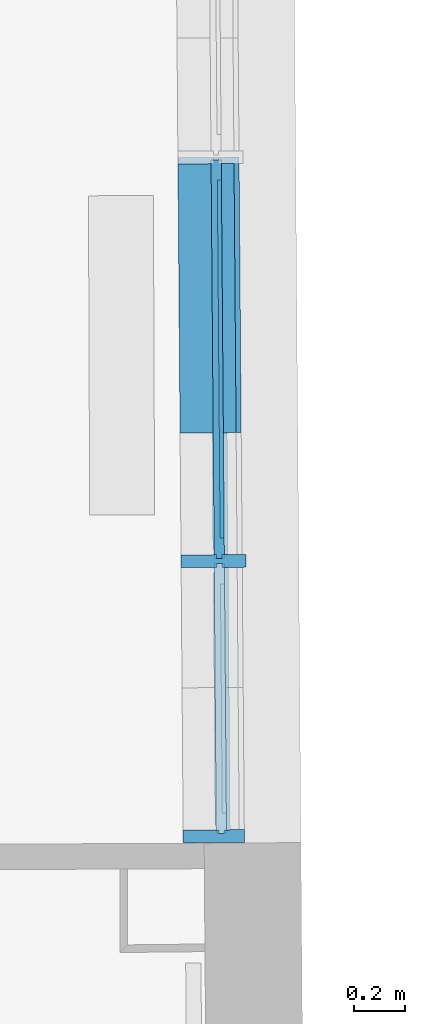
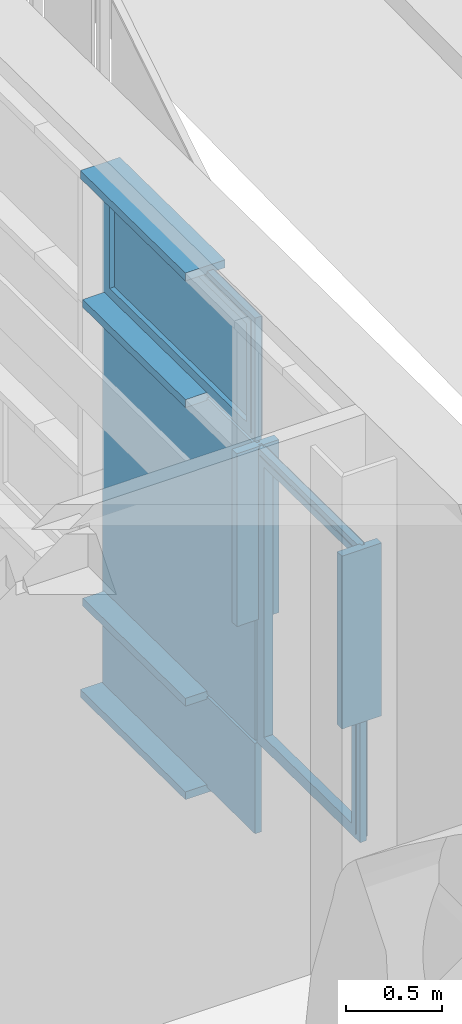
# One storey, part 94 of 158: 11 building element parts, 1 element without a shape of its own.
"""IFC2X3 building model written with IfcOpenShell, lengths in metres."""

from ifc_helpers import new_model, entity, si_unit, converted_unit, derived_unit, money_unit, direction, frame, origin_with_axes, place, context, subcontext, project, spatial, faceted_brep, material, type_object, element, aggregate, save


model = new_model("IFC2X3")

# Units and contexts
model_context = context("Model", 3, precision=1e-05, world=origin_with_axes(), true_north=direction((0.0, 1.0)))
body_context = subcontext(model_context, "Body", "Model", "MODEL_VIEW")
ifc_project = project(units=[si_unit("LENGTHUNIT", "METRE"), si_unit("AREAUNIT", "SQUARE_METRE"), si_unit("VOLUMEUNIT", "CUBIC_METRE"), converted_unit("PLANEANGLEUNIT", "DEGREE", entity("IfcPlaneAngleMeasure", 0.0174532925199), si_unit("PLANEANGLEUNIT", "RADIAN"), dimensions=[0, 0, 0, 0, 0, 0, 0]), money_unit("EUR"), converted_unit("TIMEUNIT", "Year", entity("IfcTimeMeasure", 31556926.0), si_unit("TIMEUNIT", "SECOND"), dimensions=[0, 0, 1, 0, 0, 0, 0]), si_unit("MASSUNIT", "GRAM", prefix="KILO"), si_unit("THERMODYNAMICTEMPERATUREUNIT", "DEGREE_CELSIUS"), si_unit("LUMINOUSINTENSITYUNIT", "LUMEN"), si_unit("ENERGYUNIT", "JOULE", prefix="MEGA"), derived_unit("THERMALCONDUCTANCEUNIT", [(si_unit("POWERUNIT", "WATT"), 1), (si_unit("LENGTHUNIT", "METRE"), -1), (si_unit("THERMODYNAMICTEMPERATUREUNIT", "KELVIN"), -1)]), derived_unit("SPECIFICHEATCAPACITYUNIT", [(si_unit("ENERGYUNIT", "JOULE"), 1), (si_unit("MASSUNIT", "GRAM", prefix="KILO"), -1), (si_unit("THERMODYNAMICTEMPERATUREUNIT", "KELVIN"), -1)]), derived_unit("MASSDENSITYUNIT", [(si_unit("MASSUNIT", "GRAM", prefix="KILO"), 1), (si_unit("VOLUMEUNIT", "CUBIC_METRE"), -1)])], contexts=[model_context])

# Site, building, storey
site_placement = place(None, origin_with_axes())
site = spatial("IfcSite", under=ifc_project, at=site_placement, Name="Gelände", CompositionType="ELEMENT")
building_placement = place(site_placement, origin_with_axes())
building = spatial("IfcBuilding", under=site, at=building_placement, Name="Gebäude", CompositionType="ELEMENT")
storey_placement = place(building_placement, origin_with_axes())
storey = spatial("IfcBuildingStorey", under=building, at=storey_placement, Name="ERDGESCHOSS", CompositionType="ELEMENT", Elevation=0.0)

# Proxy, building element parts
building_element_proxy_type = type_object("IfcBuildingElementProxyType", Name="Fassadentyp", PredefinedType="NOTDEFINED")
proxy_placement = place(storey_placement, frame((-15.5457352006, 40.9565245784, 1.34043905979), z_axis=(0.0, 0.0, 1.0), x_axis=(1.0, 0.0, 0.0)))
proxy = element("IfcBuildingElementProxy", 1, at=proxy_placement, inside=storey, type_object=building_element_proxy_type, Name="Fassade-002")
ifc_material_1 = material(Name="45_Glas, Normalglas")
building_element_part_1_placement = place(proxy_placement, origin_with_axes())
building_element_part_1 = element("IfcBuildingElementPart", 2, at=building_element_part_1_placement, material=ifc_material_1, Name="45_Glas, Normalglas", context=body_context, shape_type="Brep", body=[
    faceted_brep([(0.0270233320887, -6.04338100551, 2.50999994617), (0.0670221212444, -6.04306977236, 2.50999994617), (0.0631829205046, -5.54966675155, 2.50999994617), (0.023184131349, -5.54997798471, 2.50999994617), (0.0270233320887, -6.04338100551, 1.41999994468), (0.0670221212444, -6.04306977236, 1.41999994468), (0.0670221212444, -6.04306977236, 0.629999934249), (0.0631829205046, -5.54966675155, 0.629999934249), (0.0548461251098, -4.47824582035, 0.629999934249), (0.0548461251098, -4.47824582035, 1.41999994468), (0.0548461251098, -4.47824582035, 1.4231093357), (0.0548461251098, -4.47824582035, 2.50999994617), (0.0148473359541, -4.47855705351, 2.50999994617), (0.0148473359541, -4.47855705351, 1.4231093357), (0.0148473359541, -4.47855705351, 1.41999994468), (0.0148473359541, -4.47855705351, 0.629999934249), (0.023184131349, -5.54997798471, 0.629999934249), (0.0270233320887, -6.04338100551, 0.629999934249)], [[[0, 1, 2, 3]], [[4, 5, 1, 0]], [[1, 5, 6, 7, 8, 9, 10, 11, 2]], [[3, 2, 11, 12]], [[0, 3, 12, 13, 14, 15, 16, 17, 4]], [[17, 6, 5, 4]], [[16, 7, 6, 17]], [[15, 8, 7, 16]], [[14, 9, 8, 15]], [[13, 10, 9, 14]], [[12, 11, 10, 13]]]),
])
building_element_part_2_placement = place(proxy_placement, origin_with_axes())
building_element_part_2 = element("IfcBuildingElementPart", 3, at=building_element_part_2_placement, material=ifc_material_1, Name="45_Glas, Normalglas", context=body_context, shape_type="Brep", body=[
    faceted_brep([(0.0270233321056, -6.04338100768, 0.609999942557), (0.0670221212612, -6.04306977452, 0.609999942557), (0.0631829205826, -5.54966676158, 0.609999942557), (0.023184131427, -5.54997799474, 0.609999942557), (0.0270233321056, -6.04338100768, 0.0349999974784), (0.0670221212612, -6.04306977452, 0.0349999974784), (0.0631829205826, -5.54966676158, 0.0349999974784), (0.054846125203, -4.47824583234, 0.0349999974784), (0.054846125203, -4.47824583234, 0.609999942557), (0.0148473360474, -4.4785570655, 0.609999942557), (0.0148473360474, -4.4785570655, 0.0349999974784), (0.023184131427, -5.54997799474, 0.0349999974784)], [[[0, 1, 2, 3]], [[4, 5, 1, 0]], [[1, 5, 6, 7, 8, 2]], [[3, 2, 8, 9]], [[0, 3, 9, 10, 11, 4]], [[11, 6, 5, 4]], [[10, 7, 6, 11]], [[9, 8, 7, 10]]]),
])
ifc_material_2 = material(Name="53_Metall, Aluminium")
building_element_part_3_placement = place(proxy_placement, origin_with_axes())
building_element_part_3 = element("IfcBuildingElementPart", 4, at=building_element_part_3_placement, material=ifc_material_2, Name="53_Metall, Aluminium", context=body_context, shape_type="Brep", body=[
    faceted_brep([(0.0649625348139, -4.49316755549, 2.54499993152), (0.0699623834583, -4.49312865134, 2.54499993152), (0.0819049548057, -6.02795352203, 2.54499993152), (0.0769051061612, -6.02799242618, 2.54499993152), (0.0653126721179, -4.53816619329, 2.58999993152), (0.0703125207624, -4.53812728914, 2.58999993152), (0.0815548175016, -5.98295488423, 2.58999993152), (0.0765549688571, -5.98299378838, 2.58999993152)], [[[0, 1, 2, 3]], [[4, 5, 1, 0]], [[1, 5, 6, 2]], [[3, 2, 6, 7]], [[0, 3, 7, 4]], [[7, 6, 5, 4]]]),
    faceted_brep([(0.0769051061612, -6.02799242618, 2.54499993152), (0.0819049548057, -6.02795352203, 2.54499993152), (0.0819049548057, -6.02795352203, 3.2999998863), (0.0769051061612, -6.02799242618, 3.2999998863), (0.0765549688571, -5.98299378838, 2.58999993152), (0.0815548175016, -5.98295488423, 2.58999993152), (0.0815548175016, -5.98295488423, 3.2549998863), (0.0765549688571, -5.98299378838, 3.2549998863)], [[[0, 1, 2, 3]], [[4, 5, 1, 0]], [[1, 5, 6, 2]], [[3, 2, 6, 7]], [[0, 3, 7, 4]], [[7, 6, 5, 4]]]),
    faceted_brep([(0.0649625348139, -4.49316755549, 3.2999998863), (0.0699623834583, -4.49312865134, 3.2999998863), (0.0703125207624, -4.53812728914, 3.2549998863), (0.0653126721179, -4.53816619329, 3.2549998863), (0.0769051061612, -6.02799242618, 3.2999998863), (0.0819049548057, -6.02795352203, 3.2999998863), (0.0815548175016, -5.98295488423, 3.2549998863), (0.0765549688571, -5.98299378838, 3.2549998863)], [[[0, 1, 2, 3]], [[4, 5, 1, 0]], [[1, 5, 6, 2]], [[3, 2, 6, 7]], [[0, 3, 7, 4]], [[7, 6, 5, 4]]]),
    faceted_brep([(0.0649625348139, -4.49316755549, 2.54499993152), (0.0699623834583, -4.49312865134, 2.54499993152), (0.0703125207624, -4.53812728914, 2.58999993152), (0.0653126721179, -4.53816619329, 2.58999993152), (0.0649625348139, -4.49316755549, 3.2999998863), (0.0699623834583, -4.49312865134, 3.2999998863), (0.0703125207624, -4.53812728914, 3.2549998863), (0.0653126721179, -4.53816619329, 3.2549998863)], [[[0, 1, 2, 3]], [[4, 5, 1, 0]], [[1, 5, 6, 2]], [[3, 2, 6, 7]], [[0, 3, 7, 4]], [[7, 6, 5, 4]]]),
    faceted_brep([(0.0149640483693, -4.49355659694, 2.54499993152), (0.0649625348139, -4.49316755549, 2.54499993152), (0.0769051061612, -6.02799242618, 2.54499993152), (0.0269066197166, -6.02838146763, 2.54499993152), (0.0151196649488, -4.51355599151, 2.56499993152), (0.0651181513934, -4.51316695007, 2.56499993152), (0.0767494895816, -6.0079930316, 2.56499993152), (0.026751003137, -6.00838207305, 2.56499993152)], [[[0, 1, 2, 3]], [[4, 5, 1, 0]], [[1, 5, 6, 2]], [[3, 2, 6, 7]], [[0, 3, 7, 4]], [[7, 6, 5, 4]]]),
    faceted_brep([(0.0269066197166, -6.02838146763, 2.54499993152), (0.0769051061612, -6.02799242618, 2.54499993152), (0.0769051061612, -6.02799242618, 3.2999998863), (0.0269066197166, -6.02838146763, 3.2999998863), (0.026751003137, -6.00838207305, 2.56499993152), (0.0767494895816, -6.0079930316, 2.56499993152), (0.0767494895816, -6.0079930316, 3.2799998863), (0.026751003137, -6.00838207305, 3.2799998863)], [[[0, 1, 2, 3]], [[4, 5, 1, 0]], [[1, 5, 6, 2]], [[3, 2, 6, 7]], [[0, 3, 7, 4]], [[7, 6, 5, 4]]]),
    faceted_brep([(0.0149640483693, -4.49355659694, 3.2999998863), (0.0649625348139, -4.49316755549, 3.2999998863), (0.0651181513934, -4.51316695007, 3.2799998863), (0.0151196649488, -4.51355599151, 3.2799998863), (0.0269066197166, -6.02838146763, 3.2999998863), (0.0769051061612, -6.02799242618, 3.2999998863), (0.0767494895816, -6.0079930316, 3.2799998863), (0.026751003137, -6.00838207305, 3.2799998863)], [[[0, 1, 2, 3]], [[4, 5, 1, 0]], [[1, 5, 6, 2]], [[3, 2, 6, 7]], [[0, 3, 7, 4]], [[7, 6, 5, 4]]]),
    faceted_brep([(0.0149640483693, -4.49355659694, 2.54499993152), (0.0649625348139, -4.49316755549, 2.54499993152), (0.0651181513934, -4.51316695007, 2.56499993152), (0.0151196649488, -4.51355599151, 2.56499993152), (0.0149640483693, -4.49355659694, 3.2999998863), (0.0649625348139, -4.49316755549, 3.2999998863), (0.0651181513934, -4.51316695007, 3.2799998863), (0.0151196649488, -4.51355599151, 3.2799998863)], [[[0, 1, 2, 3]], [[4, 5, 1, 0]], [[1, 5, 6, 2]], [[3, 2, 6, 7]], [[0, 3, 7, 4]], [[7, 6, 5, 4]]]),
    faceted_brep([(0.0148473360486, -4.47855706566, 2.52999994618), (0.0548461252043, -4.47824583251, 2.52999994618), (0.0670221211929, -6.04306976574, 2.52999994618), (0.0270233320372, -6.0433809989, 2.52999994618), (0.0149640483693, -4.49355659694, 2.54499993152), (0.0549628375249, -4.49324536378, 2.54499993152), (0.0669054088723, -6.02807023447, 2.54499993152), (0.0269066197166, -6.02838146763, 2.54499993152)], [[[0, 1, 2, 3]], [[4, 5, 1, 0]], [[1, 5, 6, 2]], [[3, 2, 6, 7]], [[0, 3, 7, 4]], [[7, 6, 5, 4]]]),
    faceted_brep([(0.0270233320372, -6.0433809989, 2.52999994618), (0.0670221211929, -6.04306976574, 2.52999994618), (0.0670221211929, -6.04306976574, 3.31499987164), (0.0270233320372, -6.0433809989, 3.31499987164), (0.0269066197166, -6.02838146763, 2.54499993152), (0.0669054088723, -6.02807023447, 2.54499993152), (0.0669054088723, -6.02807023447, 3.2999998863), (0.0269066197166, -6.02838146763, 3.2999998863)], [[[0, 1, 2, 3]], [[4, 5, 1, 0]], [[1, 5, 6, 2]], [[3, 2, 6, 7]], [[0, 3, 7, 4]], [[7, 6, 5, 4]]]),
    faceted_brep([(0.0270233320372, -6.0433809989, 3.31499987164), (0.0670221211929, -6.04306976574, 3.31499987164), (0.0548461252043, -4.47824583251, 3.31499987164), (0.0148473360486, -4.47855706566, 3.31499987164), (0.0269066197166, -6.02838146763, 3.2999998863), (0.0669054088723, -6.02807023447, 3.2999998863), (0.0549628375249, -4.49324536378, 3.2999998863), (0.0149640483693, -4.49355659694, 3.2999998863)], [[[0, 1, 2, 3]], [[4, 5, 1, 0]], [[1, 5, 6, 2]], [[3, 2, 6, 7]], [[0, 3, 7, 4]], [[7, 6, 5, 4]]]),
    faceted_brep([(0.0148473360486, -4.47855706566, 3.31499987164), (0.0548461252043, -4.47824583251, 3.31499987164), (0.0548461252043, -4.47824583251, 2.52999994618), (0.0148473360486, -4.47855706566, 2.52999994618), (0.0149640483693, -4.49355659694, 3.2999998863), (0.0549628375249, -4.49324536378, 3.2999998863), (0.0549628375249, -4.49324536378, 2.54499993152), (0.0149640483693, -4.49355659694, 2.54499993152)], [[[0, 1, 2, 3]], [[4, 5, 1, 0]], [[1, 5, 6, 2]], [[3, 2, 6, 7]], [[0, 3, 7, 4]], [[7, 6, 5, 4]]]),
    faceted_brep([(0.0654682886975, -4.55816558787, 2.60999993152), (0.0654682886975, -4.55816558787, 3.2349998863), (0.0104699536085, -4.55859353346, 3.2349998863), (0.0104699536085, -4.55859353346, 2.60999993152), (0.0651181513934, -4.51316695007, 2.56499993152), (0.0651181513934, -4.51316695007, 3.2799998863), (0.0101198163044, -4.51359489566, 3.2799998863), (0.0101198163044, -4.51359489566, 2.56499993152)], [[[0, 1, 2, 3]], [[0, 4, 5, 1]], [[1, 5, 6, 2]], [[3, 2, 6, 7]], [[4, 0, 3, 7]], [[5, 4, 7, 6]]]),
    faceted_brep([(0.0767494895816, -6.0079930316, 2.56499993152), (0.0767494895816, -6.0079930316, 3.2799998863), (0.0217511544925, -6.00842097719, 3.2799998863), (0.0217511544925, -6.00842097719, 2.56499993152), (0.0763993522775, -5.9629943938, 2.60999993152), (0.0763993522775, -5.9629943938, 3.2349998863), (0.0214010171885, -5.96342233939, 3.2349998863), (0.0214010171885, -5.96342233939, 2.60999993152)], [[[0, 1, 2, 3]], [[0, 4, 5, 1]], [[1, 5, 6, 2]], [[3, 2, 6, 7]], [[4, 0, 3, 7]], [[5, 4, 7, 6]]]),
    faceted_brep([(0.0767494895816, -6.0079930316, 2.56499993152), (0.0763993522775, -5.9629943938, 2.60999993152), (0.0214010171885, -5.96342233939, 2.60999993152), (0.0217511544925, -6.00842097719, 2.56499993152), (0.0651181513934, -4.51316695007, 2.56499993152), (0.0654682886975, -4.55816558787, 2.60999993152), (0.0104699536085, -4.55859353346, 2.60999993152), (0.0101198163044, -4.51359489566, 2.56499993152)], [[[0, 1, 2, 3]], [[0, 4, 5, 1]], [[1, 5, 6, 2]], [[3, 2, 6, 7]], [[4, 0, 3, 7]], [[5, 4, 7, 6]]]),
    faceted_brep([(0.0651181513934, -4.51316695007, 3.2799998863), (0.0654682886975, -4.55816558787, 3.2349998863), (0.0104699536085, -4.55859353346, 3.2349998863), (0.0101198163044, -4.51359489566, 3.2799998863), (0.0767494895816, -6.0079930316, 3.2799998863), (0.0763993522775, -5.9629943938, 3.2349998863), (0.0214010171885, -5.96342233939, 3.2349998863), (0.0217511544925, -6.00842097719, 3.2799998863)], [[[0, 1, 2, 3]], [[0, 4, 5, 1]], [[1, 5, 6, 2]], [[3, 2, 6, 7]], [[4, 0, 3, 7]], [[5, 4, 7, 6]]]),
])
building_element_part_4_placement = place(proxy_placement, origin_with_axes())
building_element_part_4 = element("IfcBuildingElementPart", 5, at=building_element_part_4_placement, material=ifc_material_1, Name="45_Glas, Normalglas", context=body_context, shape_type="Brep", body=[
    faceted_brep([(0.0554685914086, -4.55824339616, 2.60999993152), (0.0663996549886, -5.96307220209, 2.60999993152), (0.0504001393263, -5.96319669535, 2.60999993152), (0.0394690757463, -4.55836788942, 2.60999993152), (0.0554685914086, -4.55824339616, 3.2349998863), (0.0663996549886, -5.96307220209, 3.2349998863), (0.0504001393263, -5.96319669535, 3.2349998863), (0.0394690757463, -4.55836788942, 3.2349998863)], [[[0, 1, 2, 3]], [[0, 4, 5, 1]], [[1, 5, 6, 2]], [[3, 2, 6, 7]], [[4, 0, 3, 7]], [[5, 4, 7, 6]]]),
])
building_element_part_5_placement = place(proxy_placement, origin_with_axes())
building_element_part_5 = element("IfcBuildingElementPart", 6, at=building_element_part_5_placement, material=ifc_material_2, Name="53_Metall, Aluminium", context=body_context, shape_type="Brep", body=[
    faceted_brep([(0.0772941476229, -6.07799091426, 0.644999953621), (0.0822939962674, -6.07795201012, 0.644999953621), (0.0903078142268, -7.1078648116, 0.644999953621), (0.0853079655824, -7.10790371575, 0.644999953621), (0.077644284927, -6.12298955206, 0.689999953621), (0.0826441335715, -6.12295064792, 0.689999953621), (0.0899576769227, -7.0628661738, 0.689999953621), (0.0849578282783, -7.06290507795, 0.689999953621)], [[[0, 1, 2, 3]], [[4, 5, 1, 0]], [[1, 5, 6, 2]], [[3, 2, 6, 7]], [[0, 3, 7, 4]], [[7, 6, 5, 4]]]),
    faceted_brep([(0.0853079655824, -7.10790371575, 0.644999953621), (0.0903078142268, -7.1078648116, 0.644999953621), (0.0903078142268, -7.1078648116, 2.4949999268), (0.0853079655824, -7.10790371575, 2.4949999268), (0.0849578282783, -7.06290507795, 0.689999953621), (0.0899576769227, -7.0628661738, 0.689999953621), (0.0899576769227, -7.0628661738, 2.4499999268), (0.0849578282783, -7.06290507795, 2.4499999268)], [[[0, 1, 2, 3]], [[4, 5, 1, 0]], [[1, 5, 6, 2]], [[3, 2, 6, 7]], [[0, 3, 7, 4]], [[7, 6, 5, 4]]]),
    faceted_brep([(0.0772941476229, -6.07799091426, 2.4949999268), (0.0822939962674, -6.07795201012, 2.4949999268), (0.0826441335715, -6.12295064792, 2.4499999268), (0.077644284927, -6.12298955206, 2.4499999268), (0.0853079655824, -7.10790371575, 2.4949999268), (0.0903078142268, -7.1078648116, 2.4949999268), (0.0899576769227, -7.0628661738, 2.4499999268), (0.0849578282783, -7.06290507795, 2.4499999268)], [[[0, 1, 2, 3]], [[4, 5, 1, 0]], [[1, 5, 6, 2]], [[3, 2, 6, 7]], [[0, 3, 7, 4]], [[7, 6, 5, 4]]]),
    faceted_brep([(0.0772941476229, -6.07799091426, 0.644999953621), (0.0822939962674, -6.07795201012, 0.644999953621), (0.0826441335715, -6.12295064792, 0.689999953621), (0.077644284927, -6.12298955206, 0.689999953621), (0.0772941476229, -6.07799091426, 2.4949999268), (0.0822939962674, -6.07795201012, 2.4949999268), (0.0826441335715, -6.12295064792, 2.4499999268), (0.077644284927, -6.12298955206, 2.4499999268)], [[[0, 1, 2, 3]], [[4, 5, 1, 0]], [[1, 5, 6, 2]], [[3, 2, 6, 7]], [[0, 3, 7, 4]], [[7, 6, 5, 4]]]),
    faceted_brep([(0.0272956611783, -6.07837995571, 0.644999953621), (0.0772941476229, -6.07799091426, 0.644999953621), (0.0853079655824, -7.10790371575, 0.644999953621), (0.0353094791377, -7.1082927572, 0.644999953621), (0.0274512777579, -6.09837935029, 0.664999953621), (0.0774497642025, -6.09799030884, 0.664999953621), (0.0851523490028, -7.08790432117, 0.664999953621), (0.0351538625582, -7.08829336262, 0.664999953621)], [[[0, 1, 2, 3]], [[4, 5, 1, 0]], [[1, 5, 6, 2]], [[3, 2, 6, 7]], [[0, 3, 7, 4]], [[7, 6, 5, 4]]]),
    faceted_brep([(0.0353094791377, -7.1082927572, 0.644999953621), (0.0853079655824, -7.10790371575, 0.644999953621), (0.0853079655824, -7.10790371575, 2.4949999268), (0.0353094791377, -7.1082927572, 2.4949999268), (0.0351538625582, -7.08829336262, 0.664999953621), (0.0851523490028, -7.08790432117, 0.664999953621), (0.0851523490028, -7.08790432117, 2.4749999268), (0.0351538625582, -7.08829336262, 2.4749999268)], [[[0, 1, 2, 3]], [[4, 5, 1, 0]], [[1, 5, 6, 2]], [[3, 2, 6, 7]], [[0, 3, 7, 4]], [[7, 6, 5, 4]]]),
    faceted_brep([(0.0272956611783, -6.07837995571, 2.4949999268), (0.0772941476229, -6.07799091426, 2.4949999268), (0.0774497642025, -6.09799030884, 2.4749999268), (0.0274512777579, -6.09837935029, 2.4749999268), (0.0353094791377, -7.1082927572, 2.4949999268), (0.0853079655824, -7.10790371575, 2.4949999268), (0.0851523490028, -7.08790432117, 2.4749999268), (0.0351538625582, -7.08829336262, 2.4749999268)], [[[0, 1, 2, 3]], [[4, 5, 1, 0]], [[1, 5, 6, 2]], [[3, 2, 6, 7]], [[0, 3, 7, 4]], [[7, 6, 5, 4]]]),
    faceted_brep([(0.0272956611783, -6.07837995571, 0.644999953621), (0.0772941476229, -6.07799091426, 0.644999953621), (0.0774497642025, -6.09799030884, 0.664999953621), (0.0274512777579, -6.09837935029, 0.664999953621), (0.0272956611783, -6.07837995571, 2.4949999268), (0.0772941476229, -6.07799091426, 2.4949999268), (0.0774497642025, -6.09799030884, 2.4749999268), (0.0274512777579, -6.09837935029, 2.4749999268)], [[[0, 1, 2, 3]], [[4, 5, 1, 0]], [[1, 5, 6, 2]], [[3, 2, 6, 7]], [[0, 3, 7, 4]], [[7, 6, 5, 4]]]),
    faceted_brep([(0.0271789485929, -6.06338039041, 0.629999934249), (0.0671777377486, -6.06306915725, 0.629999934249), (0.0754249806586, -7.12298106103, 0.629999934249), (0.0354261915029, -7.12329229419, 0.629999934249), (0.0272956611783, -6.07837995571, 0.644999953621), (0.067294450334, -6.07806872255, 0.644999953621), (0.0753082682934, -7.10798152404, 0.644999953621), (0.0353094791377, -7.1082927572, 0.644999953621)], [[[0, 1, 2, 3]], [[4, 5, 1, 0]], [[1, 5, 6, 2]], [[3, 2, 6, 7]], [[0, 3, 7, 4]], [[7, 6, 5, 4]]]),
    faceted_brep([(0.0354261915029, -7.12329229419, 0.629999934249), (0.0754249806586, -7.12298106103, 0.629999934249), (0.0754249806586, -7.12298106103, 2.50999994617), (0.0354261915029, -7.12329229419, 2.50999994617), (0.0353094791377, -7.1082927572, 0.644999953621), (0.0753082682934, -7.10798152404, 0.644999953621), (0.0753082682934, -7.10798152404, 2.4949999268), (0.0353094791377, -7.1082927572, 2.4949999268)], [[[0, 1, 2, 3]], [[4, 5, 1, 0]], [[1, 5, 6, 2]], [[3, 2, 6, 7]], [[0, 3, 7, 4]], [[7, 6, 5, 4]]]),
    faceted_brep([(0.0354261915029, -7.12329229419, 2.50999994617), (0.0754249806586, -7.12298106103, 2.50999994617), (0.0671777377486, -6.06306915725, 2.50999994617), (0.0271789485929, -6.06338039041, 2.50999994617), (0.0353094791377, -7.1082927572, 2.4949999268), (0.0753082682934, -7.10798152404, 2.4949999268), (0.067294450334, -6.07806872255, 2.4949999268), (0.0272956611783, -6.07837995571, 2.4949999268)], [[[0, 1, 2, 3]], [[4, 5, 1, 0]], [[1, 5, 6, 2]], [[3, 2, 6, 7]], [[0, 3, 7, 4]], [[7, 6, 5, 4]]]),
    faceted_brep([(0.0271789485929, -6.06338039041, 2.50999994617), (0.0671777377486, -6.06306915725, 2.50999994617), (0.0671777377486, -6.06306915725, 0.629999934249), (0.0271789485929, -6.06338039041, 0.629999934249), (0.0272956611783, -6.07837995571, 2.4949999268), (0.067294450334, -6.07806872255, 2.4949999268), (0.067294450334, -6.07806872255, 0.644999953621), (0.0272956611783, -6.07837995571, 0.644999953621)], [[[0, 1, 2, 3]], [[4, 5, 1, 0]], [[1, 5, 6, 2]], [[3, 2, 6, 7]], [[0, 3, 7, 4]], [[7, 6, 5, 4]]]),
    faceted_brep([(0.0777999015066, -6.14298894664, 0.709999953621), (0.0777999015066, -6.14298894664, 2.4299999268), (0.0228015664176, -6.14341689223, 2.4299999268), (0.0228015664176, -6.14341689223, 0.709999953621), (0.0774497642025, -6.09799030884, 0.664999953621), (0.0774497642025, -6.09799030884, 2.4749999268), (0.0224514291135, -6.09841825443, 2.4749999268), (0.0224514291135, -6.09841825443, 0.664999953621)], [[[0, 1, 2, 3]], [[0, 4, 5, 1]], [[1, 5, 6, 2]], [[3, 2, 6, 7]], [[4, 0, 3, 7]], [[5, 4, 7, 6]]]),
    faceted_brep([(0.0851523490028, -7.08790432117, 0.664999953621), (0.0851523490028, -7.08790432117, 2.4749999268), (0.0301540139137, -7.08833226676, 2.4749999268), (0.0301540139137, -7.08833226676, 0.664999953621), (0.0848022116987, -7.04290568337, 0.709999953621), (0.0848022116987, -7.04290568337, 2.4299999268), (0.0298038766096, -7.04333362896, 2.4299999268), (0.0298038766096, -7.04333362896, 0.709999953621)], [[[0, 1, 2, 3]], [[0, 4, 5, 1]], [[1, 5, 6, 2]], [[3, 2, 6, 7]], [[4, 0, 3, 7]], [[5, 4, 7, 6]]]),
    faceted_brep([(0.0851523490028, -7.08790432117, 0.664999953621), (0.0848022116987, -7.04290568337, 0.709999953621), (0.0298038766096, -7.04333362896, 0.709999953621), (0.0301540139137, -7.08833226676, 0.664999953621), (0.0774497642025, -6.09799030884, 0.664999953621), (0.0777999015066, -6.14298894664, 0.709999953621), (0.0228015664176, -6.14341689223, 0.709999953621), (0.0224514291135, -6.09841825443, 0.664999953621)], [[[0, 1, 2, 3]], [[0, 4, 5, 1]], [[1, 5, 6, 2]], [[3, 2, 6, 7]], [[4, 0, 3, 7]], [[5, 4, 7, 6]]]),
    faceted_brep([(0.0774497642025, -6.09799030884, 2.4749999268), (0.0777999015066, -6.14298894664, 2.4299999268), (0.0228015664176, -6.14341689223, 2.4299999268), (0.0224514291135, -6.09841825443, 2.4749999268), (0.0851523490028, -7.08790432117, 2.4749999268), (0.0848022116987, -7.04290568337, 2.4299999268), (0.0298038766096, -7.04333362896, 2.4299999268), (0.0301540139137, -7.08833226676, 2.4749999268)], [[[0, 1, 2, 3]], [[0, 4, 5, 1]], [[1, 5, 6, 2]], [[3, 2, 6, 7]], [[4, 0, 3, 7]], [[5, 4, 7, 6]]]),
])
building_element_part_6_placement = place(proxy_placement, origin_with_axes())
building_element_part_6 = element("IfcBuildingElementPart", 7, at=building_element_part_6_placement, material=ifc_material_2, Name="53_Metall, Aluminium", context=body_context, shape_type="Brep", body=[
    faceted_brep([(0.0331838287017, -5.54990018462, 2.50999994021), (0.0531832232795, -5.54974456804, 2.50999994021), (0.0531832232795, -5.54974456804, 2.49499994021), (0.113181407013, -5.5492777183, 2.49499994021), (0.113181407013, -5.5492777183, 2.54499994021), (0.0531832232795, -5.54974456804, 2.54499994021), (0.0531832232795, -5.54974456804, 2.52999994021), (0.0331838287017, -5.54990018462, 2.52999994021), (0.0331838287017, -5.54990018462, 2.54499994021), (-0.106811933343, -5.55098950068, 2.54499994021), (-0.106811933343, -5.55098950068, 2.49499994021), (0.0331838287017, -5.54990018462, 2.49499994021), (0.0249637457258, -4.49347879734, 2.50999994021), (0.0449631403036, -4.49332318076, 2.50999994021), (0.0449631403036, -4.49332318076, 2.49499994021), (0.104961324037, -4.49285633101, 2.49499994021), (0.104961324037, -4.49285633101, 2.54499994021), (0.0449631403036, -4.49332318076, 2.54499994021), (0.0449631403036, -4.49332318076, 2.52999994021), (0.0249637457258, -4.49347879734, 2.52999994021), (0.0249637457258, -4.49347879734, 2.54499994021), (-0.115032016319, -4.49456811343, 2.54499994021), (-0.115032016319, -4.49456811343, 2.49499994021), (0.0249637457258, -4.49347879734, 2.49499994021)], [[[0, 1, 2, 3, 4, 5, 6, 7, 8, 9, 10, 11]], [[0, 12, 13, 1]], [[1, 13, 14, 2]], [[14, 15, 3, 2]], [[4, 3, 15, 16]], [[17, 5, 4, 16]], [[5, 17, 18, 6]], [[7, 6, 18, 19]], [[8, 7, 19, 20]], [[8, 20, 21, 9]], [[10, 9, 21, 22]], [[11, 10, 22, 23]], [[11, 23, 12, 0]], [[13, 12, 23, 22, 21, 20, 19, 18, 17, 16, 15, 14]]]),
])
building_element_part_7_placement = place(proxy_placement, origin_with_axes())
building_element_part_7 = element("IfcBuildingElementPart", 8, at=building_element_part_7_placement, material=ifc_material_2, Name="53_Metall, Aluminium", context=body_context, shape_type="Brep", body=[
    faceted_brep([(0.0331838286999, -5.5499001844, 0.60999994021), (0.0531832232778, -5.54974456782, 0.60999994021), (0.0531832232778, -5.54974456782, 0.59499994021), (0.113181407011, -5.54927771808, 0.59499994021), (0.113181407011, -5.54927771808, 0.64499994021), (0.0531832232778, -5.54974456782, 0.64499994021), (0.0531832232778, -5.54974456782, 0.62999994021), (0.0331838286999, -5.5499001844, 0.62999994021), (0.0331838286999, -5.5499001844, 0.64499994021), (-0.106811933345, -5.55098950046, 0.64499994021), (-0.106811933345, -5.55098950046, 0.59499994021), (0.0331838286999, -5.5499001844, 0.59499994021), (0.0249637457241, -4.49347879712, 0.60999994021), (0.0449631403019, -4.49332318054, 0.60999994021), (0.0449631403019, -4.49332318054, 0.59499994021), (0.104961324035, -4.49285633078, 0.59499994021), (0.104961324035, -4.49285633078, 0.64499994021), (0.0449631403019, -4.49332318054, 0.64499994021), (0.0449631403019, -4.49332318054, 0.62999994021), (0.0249637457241, -4.49347879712, 0.62999994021), (0.0249637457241, -4.49347879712, 0.64499994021), (-0.115032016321, -4.4945681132, 0.64499994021), (-0.115032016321, -4.4945681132, 0.59499994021), (0.0249637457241, -4.49347879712, 0.59499994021)], [[[0, 1, 2, 3, 4, 5, 6, 7, 8, 9, 10, 11]], [[0, 12, 13, 1]], [[1, 13, 14, 2]], [[14, 15, 3, 2]], [[4, 3, 15, 16]], [[17, 5, 4, 16]], [[5, 17, 18, 6]], [[7, 6, 18, 19]], [[8, 7, 19, 20]], [[8, 20, 21, 9]], [[10, 9, 21, 22]], [[11, 10, 22, 23]], [[11, 23, 12, 0]], [[13, 12, 23, 22, 21, 20, 19, 18, 17, 16, 15, 14]]]),
])
building_element_part_8_placement = place(proxy_placement, origin_with_axes())
building_element_part_8 = element("IfcBuildingElementPart", 9, at=building_element_part_8_placement, material=ifc_material_2, Name="53_Metall, Aluminium", context=body_context, shape_type="Brep", body=[
    faceted_brep([(0.0371786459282, -6.06330258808, 2.51999994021), (0.0571780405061, -6.0631469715, 2.51999994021), (0.0572947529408, -6.07814651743, 2.51999994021), (0.152291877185, -6.07740733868, 2.51999994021), (0.151902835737, -6.02740885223, 2.51999994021), (0.0569057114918, -6.02814803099, 2.51999994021), (0.0570224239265, -6.04314757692, 2.51999994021), (0.0370230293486, -6.0433031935, 2.51999994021), (0.0369063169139, -6.02830364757, 2.51999994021), (-0.103089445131, -6.02939296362, 2.51999994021), (-0.102700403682, -6.07939145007, 2.51999994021), (0.0372953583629, -6.07830213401, 2.51999994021), (0.0371786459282, -6.06330258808, 1.41999994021), (0.0571780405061, -6.0631469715, 1.41999994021), (0.0572947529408, -6.07814651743, 1.41999994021), (0.152291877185, -6.07740733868, 1.41999994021), (0.151902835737, -6.02740885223, 1.41999994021), (0.0569057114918, -6.02814803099, 1.41999994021), (0.0570224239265, -6.04314757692, 1.41999994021), (0.0370230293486, -6.0433031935, 1.41999994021), (0.0369063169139, -6.02830364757, 1.41999994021), (-0.103089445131, -6.02939296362, 1.41999994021), (-0.102700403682, -6.07939145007, 1.41999994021), (0.0372953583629, -6.07830213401, 1.41999994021)], [[[0, 1, 2, 3, 4, 5, 6, 7, 8, 9, 10, 11]], [[0, 12, 13, 1]], [[1, 13, 14, 2]], [[14, 15, 3, 2]], [[3, 15, 16, 4]], [[17, 5, 4, 16]], [[5, 17, 18, 6]], [[7, 6, 18, 19]], [[8, 7, 19, 20]], [[8, 20, 21, 9]], [[9, 21, 22, 10]], [[11, 10, 22, 23]], [[11, 23, 12, 0]], [[13, 12, 23, 22, 21, 20, 19, 18, 17, 16, 15, 14]]]),
])
building_element_part_9_placement = place(proxy_placement, origin_with_axes())
building_element_part_9 = element("IfcBuildingElementPart", 10, at=building_element_part_9_placement, material=ifc_material_2, Name="53_Metall, Aluminium", context=body_context, shape_type="Brep", body=[
    faceted_brep([(0.0331838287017, -5.54990018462, 0.035), (0.0331838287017, -5.54990018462, 0.05), (-0.106811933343, -5.55098950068, 0.05), (-0.106811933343, -5.55098950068, 0.0), (0.133180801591, -5.54912210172, 0.0), (0.133180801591, -5.54912210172, 0.05), (0.0531832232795, -5.54974456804, 0.05), (0.0531832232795, -5.54974456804, 0.035), (0.0247692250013, -4.46847955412, 0.035), (0.0247692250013, -4.46847955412, 0.05), (-0.115226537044, -4.46956887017, 0.05), (-0.115226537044, -4.46956887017, 0.0), (0.124766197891, -4.46770147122, 0.0), (0.124766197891, -4.46770147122, 0.05), (0.0447686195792, -4.46832393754, 0.05), (0.0447686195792, -4.46832393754, 0.035)], [[[0, 1, 2, 3, 4, 5, 6, 7]], [[0, 8, 9, 1]], [[9, 10, 2, 1]], [[10, 11, 3, 2]], [[11, 12, 4, 3]], [[12, 13, 5, 4]], [[6, 5, 13, 14]], [[14, 15, 7, 6]], [[7, 15, 8, 0]], [[8, 15, 14, 13, 12, 11, 10, 9]]]),
])
building_element_part_10_placement = place(proxy_placement, origin_with_axes())
building_element_part_10 = element("IfcBuildingElementPart", 11, at=building_element_part_10_placement, material=ifc_material_2, Name="53_Metall, Aluminium", context=body_context, shape_type="Brep", body=[
    faceted_brep([(0.0331838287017, -5.54990018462, 3.31499987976), (0.0531832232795, -5.54974456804, 3.31499987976), (0.0531832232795, -5.54974456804, 3.29999987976), (0.133180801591, -5.54912210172, 3.29999987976), (0.133180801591, -5.54912210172, 3.34999987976), (-0.106811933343, -5.55098950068, 3.34999987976), (-0.106811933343, -5.55098950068, 3.29999987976), (0.0331838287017, -5.54990018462, 3.29999987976), (0.0247692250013, -4.46847955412, 3.31499987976), (0.0447686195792, -4.46832393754, 3.31499987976), (0.0447686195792, -4.46832393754, 3.29999987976), (0.124766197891, -4.46770147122, 3.29999987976), (0.124766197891, -4.46770147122, 3.34999987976), (-0.115226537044, -4.46956887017, 3.34999987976), (-0.115226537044, -4.46956887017, 3.29999987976), (0.0247692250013, -4.46847955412, 3.29999987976)], [[[0, 1, 2, 3, 4, 5, 6, 7]], [[1, 0, 8, 9]], [[10, 2, 1, 9]], [[2, 10, 11, 3]], [[12, 4, 3, 11]], [[13, 5, 4, 12]], [[14, 6, 5, 13]], [[15, 7, 6, 14]], [[0, 7, 15, 8]], [[8, 15, 14, 13, 12, 11, 10, 9]]]),
])
building_element_part_11_placement = place(proxy_placement, origin_with_axes())
building_element_part_11 = element("IfcBuildingElementPart", 12, at=building_element_part_11_placement, material=ifc_material_2, Name="53_Metall, Aluminium", context=body_context, shape_type="Brep", body=[
    faceted_brep([(0.0454258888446, -7.12321449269, 2.51999994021), (0.04530917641, -7.10821494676, 2.51999994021), (-0.0946865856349, -7.10930426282, 2.51999994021), (-0.0942975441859, -7.15930274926, 2.51999994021), (0.145695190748, -7.15743535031, 2.51999994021), (0.145306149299, -7.10743686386, 2.51999994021), (0.0653085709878, -7.10805933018, 2.51999994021), (0.0654252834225, -7.12305887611, 2.51999994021), (0.0454258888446, -7.12321449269, 1.41999994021), (0.04530917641, -7.10821494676, 1.41999994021), (-0.0946865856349, -7.10930426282, 1.41999994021), (-0.0942975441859, -7.15930274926, 1.41999994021), (0.145695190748, -7.15743535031, 1.41999994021), (0.145306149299, -7.10743686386, 1.41999994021), (0.0653085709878, -7.10805933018, 1.41999994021), (0.0654252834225, -7.12305887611, 1.41999994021)], [[[0, 1, 2, 3, 4, 5, 6, 7]], [[0, 8, 9, 1]], [[9, 10, 2, 1]], [[10, 11, 3, 2]], [[11, 12, 4, 3]], [[12, 13, 5, 4]], [[6, 5, 13, 14]], [[14, 15, 7, 6]], [[7, 15, 8, 0]], [[8, 15, 14, 13, 12, 11, 10, 9]]]),
])
aggregate(proxy, [building_element_part_1, building_element_part_2, building_element_part_3, building_element_part_4, building_element_part_5, building_element_part_6, building_element_part_7, building_element_part_8, building_element_part_9, building_element_part_10, building_element_part_11])

save(model, "model.ifc")
